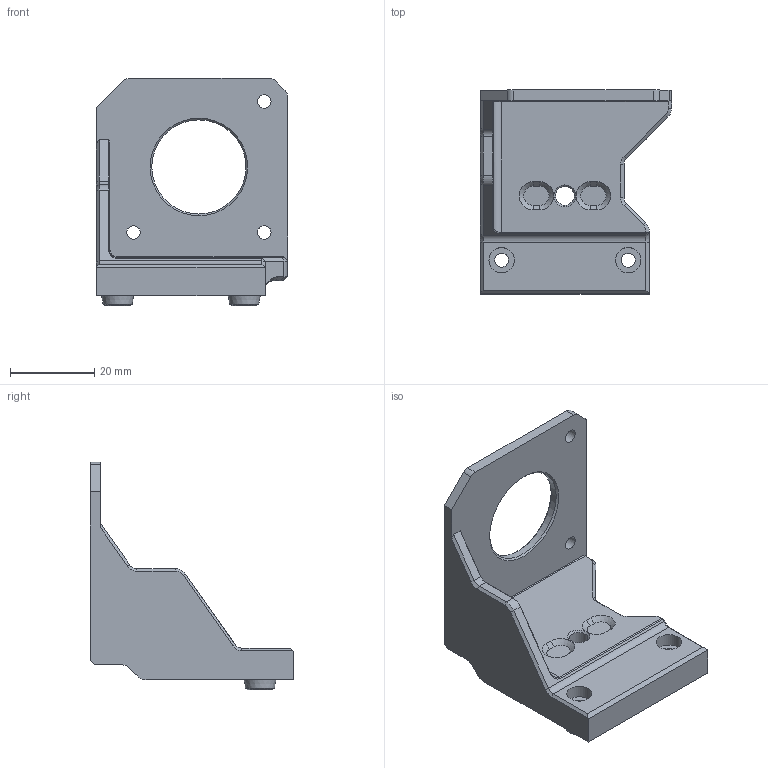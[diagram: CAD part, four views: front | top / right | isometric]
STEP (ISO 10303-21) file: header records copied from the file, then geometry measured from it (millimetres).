
FILE_DESCRIPTION(/* description */ (''),/* implementation_level */ '2;1');
FILE_NAME(/* name */ 'HMG7-Bondtech-BMG-M-Rear-Mirror-Mount.step',/* time_stamp */ '2022-11-01T21:51:30-07:00',/* author */ (''),/* organization */ (''),/* preprocessor_version */ 'ST-DEVELOPER v19.2',/* originating_system */ 'Autodesk Translation Framework v11.17.0.187',/* authorisation */ '');
FILE_SCHEMA (('AUTOMOTIVE_DESIGN { 1 0 10303 214 3 1 1 }'));
Length unit declared in the file: millimetre
Products named in the file (5): GEN_7_1.5; Bondtech_BMG; BMG_Mount; BMG_Mirrir; BMG_Front_Stepper
Assembly tree (4 placements, depth 3):
  GEN_7_1.5
    Bondtech_BMG
      BMG_Mount
      BMG_Mirrir
      BMG_Front_Stepper
Bounding box: 45.25 x 48.23 x 53.88 mm (x, y, z)
Volume: 19249.7 mm3; surface area: 9723.4 mm2
Topology: 1 solids, 1 shells, 114 faces, 275 edges, 169 vertices
Faces by surface type: plane 57, cone 27, cylinder 22, bspline 8
Full cylindrical faces by diameter (mm): 3.2 x3, 3.3 x2, 4.4 x1, 6 x2, 22.3 x1
Entity records: 3543 total; most frequent: CARTESIAN_POINT 743, DIRECTION 564, ORIENTED_EDGE 550, EDGE_CURVE 275, AXIS2_PLACEMENT_3D 191, LINE 182, VECTOR 182, VERTEX_POINT 169
